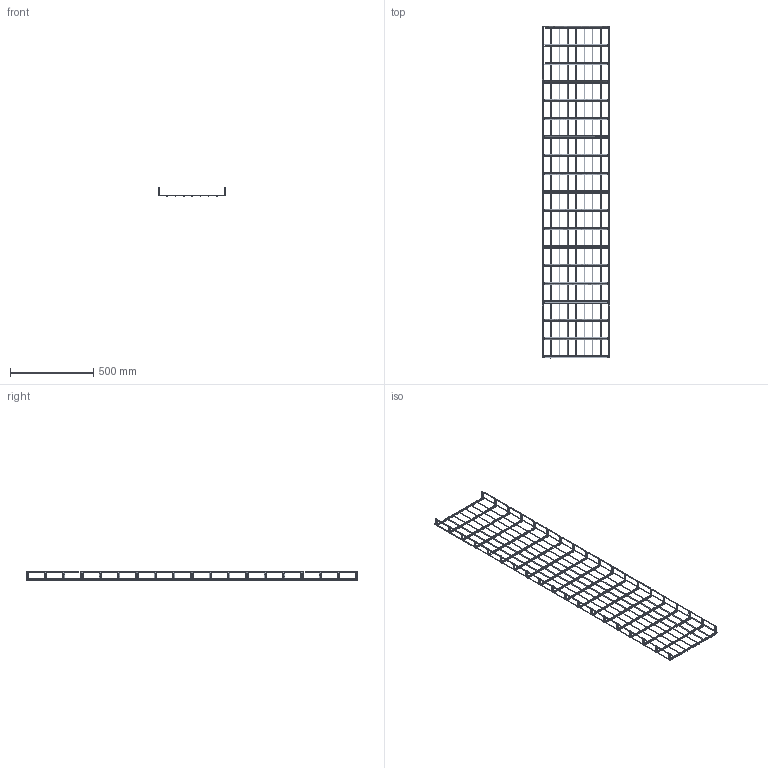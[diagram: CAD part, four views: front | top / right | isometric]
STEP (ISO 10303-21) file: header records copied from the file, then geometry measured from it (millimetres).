
FILE_DESCRIPTION(/* description */ (''),/* implementation_level */ '2;1');
FILE_NAME(/* name */ 'M2_400×050',/* time_stamp */ '2012-11-29T22:11:55+01:00',/* author */ (''),/* organization */ (''),/* preprocessor_version */ 'ST-DEVELOPER v10',/* originating_system */ '',/* authorisation */ '');
FILE_SCHEMA (('AUTOMOTIVE_DESIGN_CC2'));
Length unit declared in the file: millimetre
Products named in the file (1): 1
Bounding box: 404.19 x 1993.52 x 53.94 mm (x, y, z)
Surface area: 481739.9 mm2 (no closed solid volume)
Topology: 0 solids, 333 shells, 644 faces, 1888 edges, 1266 vertices
Faces by surface type: bspline 622, plane 22
Entity records: 53300 total; most frequent: CARTESIAN_POINT 41214, ORIENTED_EDGE 2510, EDGE_CURVE 1888, VERTEX_POINT 1266, B_SPLINE_CURVE_WITH_KNOTS 694, ADVANCED_FACE 644, FACE_OUTER_BOUND 644, EDGE_LOOP 644
